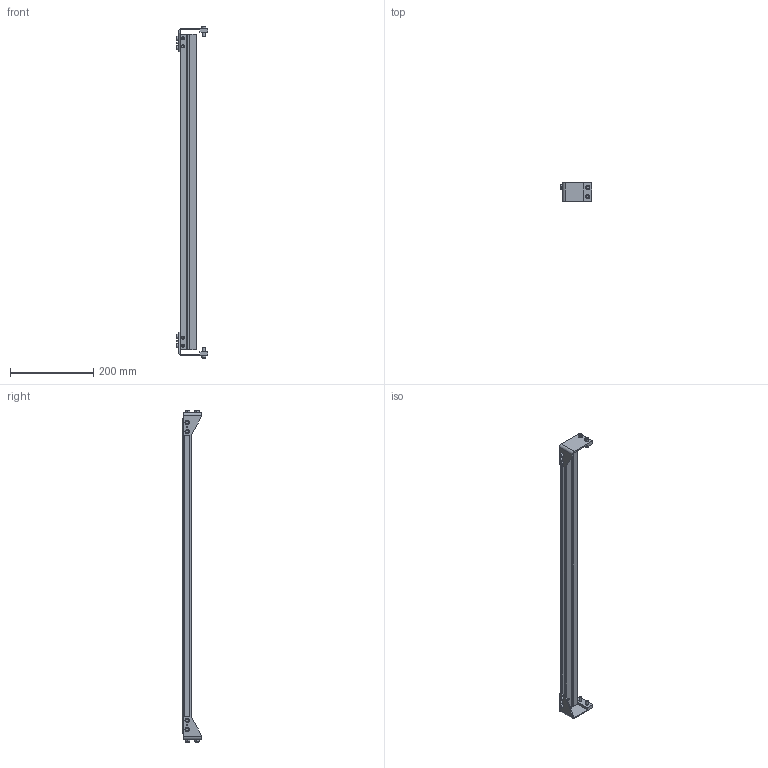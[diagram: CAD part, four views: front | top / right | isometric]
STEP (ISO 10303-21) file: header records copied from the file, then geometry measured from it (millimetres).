
FILE_DESCRIPTION((''),'2;1');
FILE_NAME('3076WWM_2_ASM','2023-03-15T',('jenni.wallner'),(''),'PRO/ENGINEER BY PARAMETRIC TECHNOLOGY CORPORATION, 2012420','PRO/ENGINEER BY PARAMETRIC TECHNOLOGY CORPORATION, 2012420','');
FILE_SCHEMA(('CONFIG_CONTROL_DESIGN'));
Length unit declared in the file: inch
Products named in the file (4): 677721_1; BRACKET_L; BRACKET_R; 3076WWM_2_ASM
Assembly tree (3 placements, depth 2):
  3076WWM_2_ASM
    677721_1
    BRACKET_L
    BRACKET_R
Bounding box: 76.2 x 46.13 x 798.82 mm (x, y, z)
Volume: 353438.9 mm3; surface area: 212949.5 mm2
Topology: 3 solids, 3 shells, 296 faces, 730 edges, 476 vertices
Faces by surface type: plane 188, cylinder 76, cone 32
Entity records: 8834 total; most frequent: DIRECTION 1520, CARTESIAN_POINT 1509, ORIENTED_EDGE 1460, EDGE_CURVE 730, VECTOR 546, LINE 546, AXIS2_PLACEMENT_3D 487, VERTEX_POINT 476
